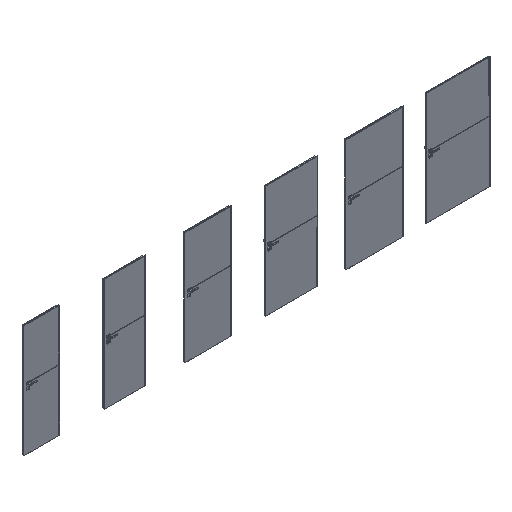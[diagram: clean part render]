
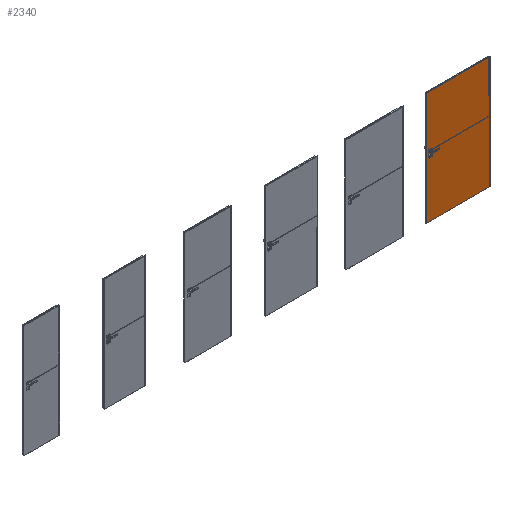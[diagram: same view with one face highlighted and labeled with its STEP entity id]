
A CAD part, isometric view. The second image highlights one B-rep face of the part: STEP entity #2340.
In plain terms, the highlighted planar face has unit normal (0, -1, 0).
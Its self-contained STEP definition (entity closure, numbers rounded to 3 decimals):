
#2340=ADVANCED_FACE('',(#4086),#3177,.F.);
#3177=PLANE('',#20399);
#4086=FACE_OUTER_BOUND('',#5310,.T.);
#5310=EDGE_LOOP('',(#12330,#12331,#12332,#12333,#12334,#12335,#12336,#12337));
#6834=LINE('',#34576,#8406);
#6835=LINE('',#34579,#8407);
#6836=LINE('',#34581,#8408);
#6837=LINE('',#34583,#8409);
#6838=LINE('',#34585,#8410);
#6839=LINE('',#34587,#8411);
#6840=LINE('',#34589,#8412);
#6841=LINE('',#34591,#8413);
#8406=VECTOR('',#24309,1.);
#8407=VECTOR('',#24310,1.);
#8408=VECTOR('',#24311,1.);
#8409=VECTOR('',#24312,1.);
#8410=VECTOR('',#24313,1.);
#8411=VECTOR('',#24314,1.);
#8412=VECTOR('',#24315,1.);
#8413=VECTOR('',#24316,1.);
#12330=ORIENTED_EDGE('',*,*,#17582,.F.);
#12331=ORIENTED_EDGE('',*,*,#17583,.F.);
#12332=ORIENTED_EDGE('',*,*,#17584,.T.);
#12333=ORIENTED_EDGE('',*,*,#17585,.F.);
#12334=ORIENTED_EDGE('',*,*,#17586,.F.);
#12335=ORIENTED_EDGE('',*,*,#17587,.T.);
#12336=ORIENTED_EDGE('',*,*,#17588,.T.);
#12337=ORIENTED_EDGE('',*,*,#17589,.F.);
#15308=VERTEX_POINT('',#34577);
#15309=VERTEX_POINT('',#34578);
#15310=VERTEX_POINT('',#34580);
#15311=VERTEX_POINT('',#34582);
#15312=VERTEX_POINT('',#34584);
#15313=VERTEX_POINT('',#34586);
#15314=VERTEX_POINT('',#34588);
#15315=VERTEX_POINT('',#34590);
#17582=EDGE_CURVE('',#15308,#15309,#6834,.T.);
#17583=EDGE_CURVE('',#15310,#15308,#6835,.T.);
#17584=EDGE_CURVE('',#15310,#15311,#6836,.T.);
#17585=EDGE_CURVE('',#15312,#15311,#6837,.T.);
#17586=EDGE_CURVE('',#15313,#15312,#6838,.T.);
#17587=EDGE_CURVE('',#15313,#15314,#6839,.T.);
#17588=EDGE_CURVE('',#15314,#15315,#6840,.T.);
#17589=EDGE_CURVE('',#15309,#15315,#6841,.T.);
#20399=AXIS2_PLACEMENT_3D('',#34592,#24317,#24318);
#24309=DIRECTION('',(1.,0.,0.));
#24310=DIRECTION('',(0.,0.,-1.));
#24311=DIRECTION('',(1.,0.,0.));
#24312=DIRECTION('',(0.,0.,-1.));
#24313=DIRECTION('',(1.,0.,0.));
#24314=DIRECTION('',(0.,0.,-1.));
#24315=DIRECTION('',(1.,0.,0.));
#24316=DIRECTION('',(0.,0.,-1.));
#24317=DIRECTION('',(0.,1.,0.));
#24318=DIRECTION('',(-1.,0.,0.));
#34576=CARTESIAN_POINT('',(8072.,-39.3,1101.));
#34577=CARTESIAN_POINT('',(6996.,-39.3,1101.));
#34578=CARTESIAN_POINT('',(8072.,-39.3,1101.));
#34579=CARTESIAN_POINT('',(6996.,-39.3,1107.));
#34580=CARTESIAN_POINT('',(6996.,-39.3,1107.));
#34581=CARTESIAN_POINT('',(8072.,-39.3,1107.));
#34582=CARTESIAN_POINT('',(8072.,-39.3,1107.));
#34583=CARTESIAN_POINT('',(8072.,-39.3,2030.));
#34584=CARTESIAN_POINT('',(8072.,-39.3,2030.));
#34585=CARTESIAN_POINT('',(7178.,-39.3,2030.));
#34586=CARTESIAN_POINT('',(6928.,-39.3,2030.));
#34587=CARTESIAN_POINT('',(6928.,-39.3,2030.));
#34588=CARTESIAN_POINT('',(6928.,-39.3,2.));
#34589=CARTESIAN_POINT('',(7178.,-39.3,2.));
#34590=CARTESIAN_POINT('',(8072.,-39.3,2.));
#34591=CARTESIAN_POINT('',(8072.,-39.3,2030.));
#34592=CARTESIAN_POINT('',(7178.,-39.3,2030.));
